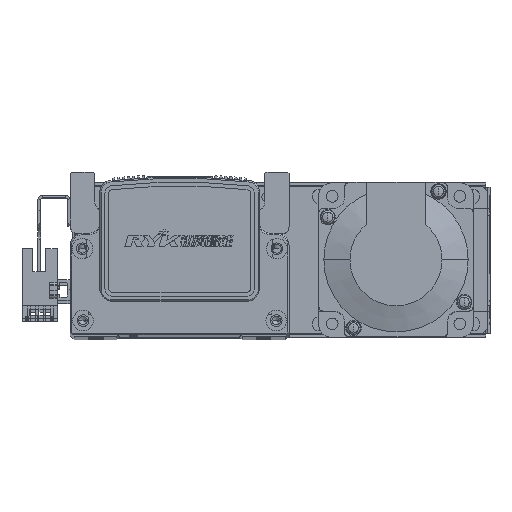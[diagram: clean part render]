
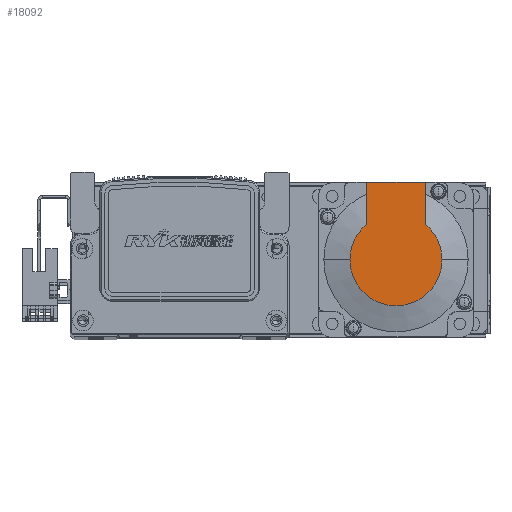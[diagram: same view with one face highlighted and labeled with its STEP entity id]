
A CAD part, top view. The second image highlights one B-rep face of the part: STEP entity #18092.
In plain terms, the highlighted planar face has unit normal (0, 0, 1) as drawn and (-1, 0, 0) by its records, which use the part's own axes.
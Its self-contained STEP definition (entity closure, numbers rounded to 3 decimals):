
#3134 = DIRECTION ( 'NONE',  ( -1., 0., 0. ) ) ;
#3138 = DIRECTION ( 'NONE',  ( 0., 0., -1. ) ) ;
#3152 = CARTESIAN_POINT ( 'NONE',  ( -99., 0., 0. ) ) ;
#5594 = ORIENTED_EDGE ( 'NONE', *, *, #58975, .F. ) ;
#5600 = ORIENTED_EDGE ( 'NONE', *, *, #58988, .F. ) ;
#5604 = ORIENTED_EDGE ( 'NONE', *, *, #58818, .T. ) ;
#5644 = ORIENTED_EDGE ( 'NONE', *, *, #58240, .T. ) ;
#5985 = CIRCLE ( 'NONE', #54864, 17.881 ) ;
#6375 = CIRCLE ( 'NONE', #54915, 17.881 ) ;
#7119 = LINE ( 'NONE', #58075, #7299 ) ;
#7145 = LINE ( 'NONE', #57720, #7165 ) ;
#7165 = VECTOR ( 'NONE', #57688, 1000. ) ;
#7211 = CIRCLE ( 'NONE', #55072, 17.881 ) ;
#7233 = LINE ( 'NONE', #58150, #7329 ) ;
#7299 = VECTOR ( 'NONE', #58007, 1000. ) ;
#7329 = VECTOR ( 'NONE', #58099, 1000. ) ;
#7435 = VERTEX_POINT ( 'NONE', #45935 ) ;
#7456 = VERTEX_POINT ( 'NONE', #46037 ) ;
#7472 = VERTEX_POINT ( 'NONE', #46057 ) ;
#12944 = VERTEX_POINT ( 'NONE', #34162 ) ;
#12953 = VERTEX_POINT ( 'NONE', #34141 ) ;
#13033 = VERTEX_POINT ( 'NONE', #34253 ) ;
#18092 = ADVANCED_FACE ( 'NONE', ( #44685 ), #28676, .T. ) ;
#28637 = DIRECTION ( 'NONE',  ( 0., 0., 1. ) ) ;
#28672 = DIRECTION ( 'NONE',  ( -1., 0., 0. ) ) ;
#28676 = PLANE ( 'NONE',  #41846 ) ;
#28703 = CARTESIAN_POINT ( 'NONE',  ( -99., -8.941, 0. ) ) ;
#34141 = CARTESIAN_POINT ( 'NONE',  ( -99., 30., -11.45 ) ) ;
#34162 = CARTESIAN_POINT ( 'NONE',  ( -99., 13.735, -11.45 ) ) ;
#34253 = CARTESIAN_POINT ( 'NONE',  ( -99., 30., 11.45 ) ) ;
#41846 = AXIS2_PLACEMENT_3D ( 'NONE', #28703, #28672, #28637 ) ;
#44685 = FACE_OUTER_BOUND ( 'NONE', #56220, .T. ) ;
#45935 = CARTESIAN_POINT ( 'NONE',  ( -99., 13.735, 11.45 ) ) ;
#46037 = CARTESIAN_POINT ( 'NONE',  ( -99., 0., 17.881 ) ) ;
#46057 = CARTESIAN_POINT ( 'NONE',  ( -99., 0., -17.881 ) ) ;
#54063 = ORIENTED_EDGE ( 'NONE', *, *, #58335, .T. ) ;
#54111 = ORIENTED_EDGE ( 'NONE', *, *, #58827, .T. ) ;
#54864 = AXIS2_PLACEMENT_3D ( 'NONE', #3152, #3134, #3138 ) ;
#54915 = AXIS2_PLACEMENT_3D ( 'NONE', #56804, #56802, #56805 ) ;
#55072 = AXIS2_PLACEMENT_3D ( 'NONE', #57699, #57653, #57701 ) ;
#56220 = EDGE_LOOP ( 'NONE', ( #5604, #54111, #5644, #54063, #5600, #5594 ) ) ;
#56802 = DIRECTION ( 'NONE',  ( -1., 0., 0. ) ) ;
#56804 = CARTESIAN_POINT ( 'NONE',  ( -99., 0., 0. ) ) ;
#56805 = DIRECTION ( 'NONE',  ( 0., 0., -1. ) ) ;
#57653 = DIRECTION ( 'NONE',  ( -1., 0., 0. ) ) ;
#57688 = DIRECTION ( 'NONE',  ( 0., -1., 0. ) ) ;
#57699 = CARTESIAN_POINT ( 'NONE',  ( -99., 0., 0. ) ) ;
#57701 = DIRECTION ( 'NONE',  ( 0., 0., -1. ) ) ;
#57720 = CARTESIAN_POINT ( 'NONE',  ( -99., -8.941, -11.45 ) ) ;
#58007 = DIRECTION ( 'NONE',  ( 0., 0., 1. ) ) ;
#58075 = CARTESIAN_POINT ( 'NONE',  ( -99., 30., 25. ) ) ;
#58099 = DIRECTION ( 'NONE',  ( 0., -1., 0. ) ) ;
#58150 = CARTESIAN_POINT ( 'NONE',  ( -99., 0., 11.45 ) ) ;
#58240 = EDGE_CURVE ( 'NONE', #7472, #7456, #5985, .T. ) ;
#58335 = EDGE_CURVE ( 'NONE', #7456, #7435, #6375, .T. ) ;
#58818 = EDGE_CURVE ( 'NONE', #12953, #12944, #7145, .T. ) ;
#58827 = EDGE_CURVE ( 'NONE', #12944, #7472, #7211, .T. ) ;
#58975 = EDGE_CURVE ( 'NONE', #12953, #13033, #7119, .T. ) ;
#58988 = EDGE_CURVE ( 'NONE', #13033, #7435, #7233, .T. ) ;
